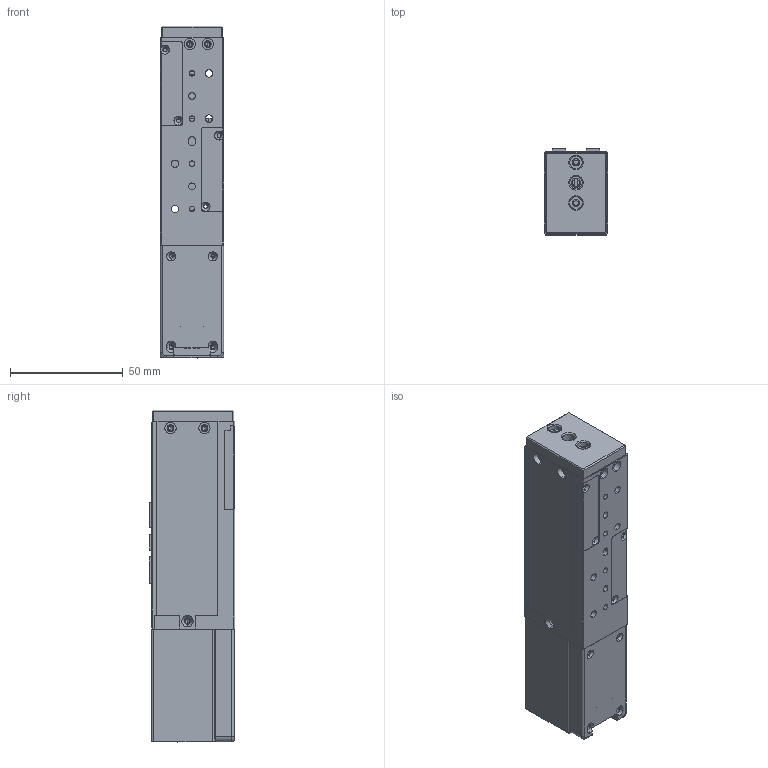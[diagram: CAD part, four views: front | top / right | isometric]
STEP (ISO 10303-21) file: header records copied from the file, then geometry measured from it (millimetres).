
FILE_DESCRIPTION (( 'STEP AP203' ), '1' );
FILE_NAME ('EM28A51-B02P30.STEP', '2023-10-28T06:07:16', ( '' ), ( '' ), 'SwSTEP 2.0', 'SolidWorks 2023', '' );
FILE_SCHEMA (( 'CONFIG_CONTROL_DESIGN' ));
Length unit declared in the file: millimetre
Products named in the file (14): 28A50端子罩; 28-30光电滑台分体基座; 28光电分体轴承座; 0602滚珠螺母; 28滑台安装座; MGN9C-76滑轨; 28轴承调节板; 28-30光电滑台盖板; 28-42前导光片; 28-30分体侧板; 28-42后导光片; 28A51-GZ0602-92电机; EM28A51-B02P30; MGN9C滑块
Assembly tree (14 placements, depth 2):
  EM28A51-B02P30
    28-30光电滑台分体基座
    MGN9C-76滑轨
    MGN9C滑块
    28滑台安装座
    28光电分体轴承座
    28-30分体侧板  x2
    0602滚珠螺母
    28A51-GZ0602-92电机
    28-30光电滑台盖板
    28轴承调节板
    28-42前导光片
    28-42后导光片
    28A50端子罩
Bounding box: 28 x 38 x 147 mm (x, y, z)
Volume: 102774.9 mm3; surface area: 61910.3 mm2
Topology: 14 solids, 14 shells, 949 faces, 2593 edges, 1637 vertices
Faces by surface type: cylinder 447, plane 371, cone 114, torus 9, bspline 8
Entity records: 48933 total; most frequent: CARTESIAN_POINT 24254, ORIENTED_EDGE 4908, DIRECTION 4821, EDGE_CURVE 2454, AXIS2_PLACEMENT_3D 1695, VERTEX_POINT 1589, VECTOR 1431, LINE 1431
